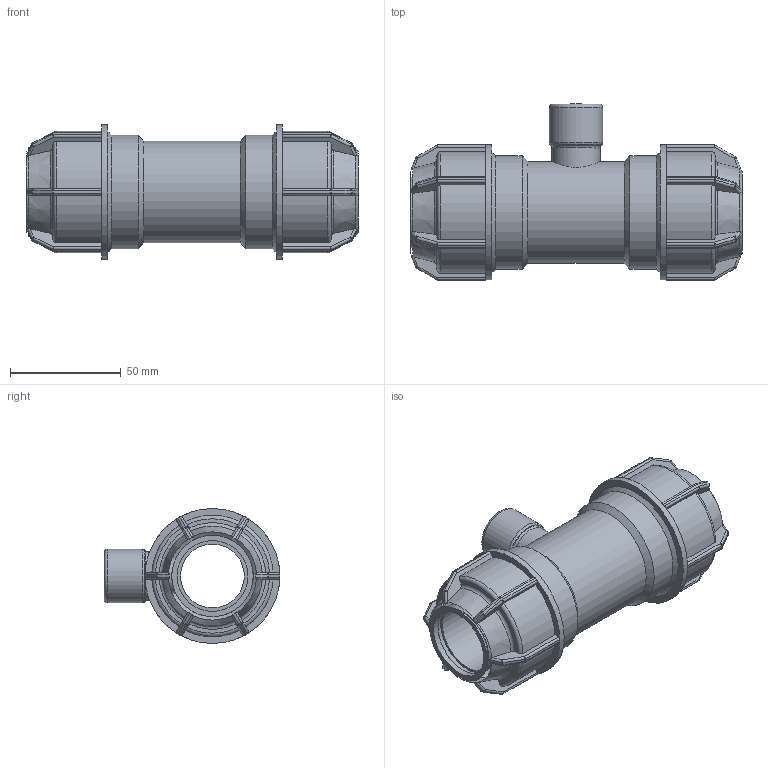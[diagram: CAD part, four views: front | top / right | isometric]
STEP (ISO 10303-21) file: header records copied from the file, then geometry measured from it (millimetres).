
FILE_DESCRIPTION(/* description */ ('PLASSON L.14 TEE FEMALE ADAPTOR (SILVER) 32 x 1/2" x 32'),/* implementation_level */ '2;1');
FILE_NAME(/* name */ 'C:\Dropbox\KIMPROJECTS-Inventor\99-16-3568-Processing\Silver Fittings\141400\141400032005.ipt.stp',/* time_stamp */ '2018-04-16T11:15:50+03:00',/* author */ ('KIM'),/* organization */ (''),/* preprocessor_version */ 'ST-DEVELOPER v15.6',/* originating_system */ 'Autodesk Inventor 2015',/* authorisation */ '');
FILE_SCHEMA (('AUTOMOTIVE_DESIGN { 1 0 10303 214 3 1 1 }'));
Length unit declared in the file: millimetre
Products named in the file (1): 141400032005
Bounding box: 150 x 79.5 x 61 mm (x, y, z)
Volume: 186390 mm3; surface area: 49843.3 mm2
Topology: 1 solids, 1 shells, 413 faces, 992 edges, 568 vertices
Faces by surface type: plane 193, cylinder 122, sphere 48, torus 31, cone 19
Full cylindrical faces by diameter (mm): 16 x1, 18.631 x1, 21.798 x1, 24.22 x1, 28.8 x1, 32 x4, 46.08 x1, 51.2 x2, 61 x2
Entity records: 11992 total; most frequent: CARTESIAN_POINT 3097, DIRECTION 1872, ORIENTED_EDGE 1822, EDGE_CURVE 911, AXIS2_PLACEMENT_3D 756, VERTEX_POINT 539, EDGE_LOOP 450, FACE_OUTER_BOUND 410
